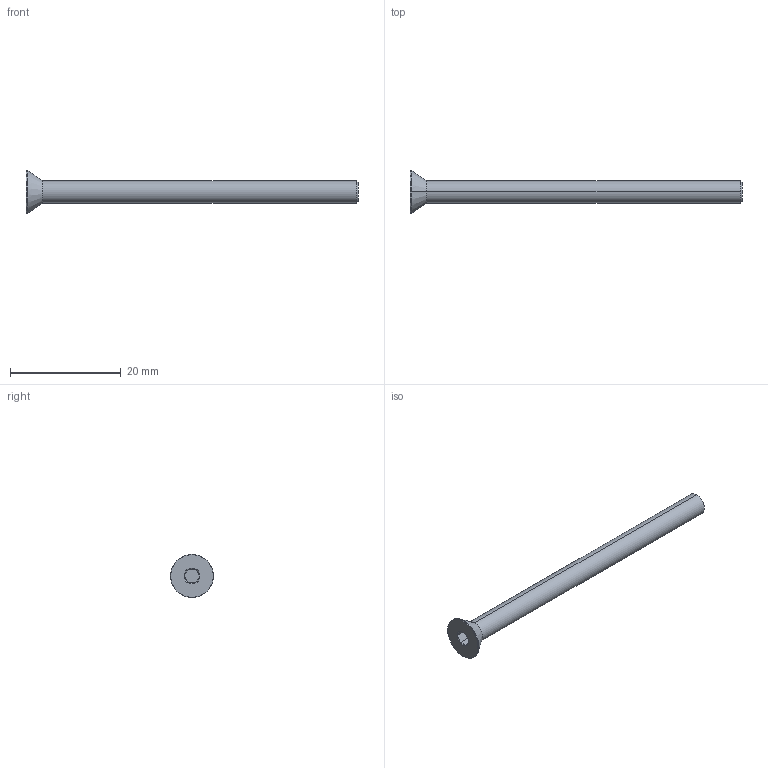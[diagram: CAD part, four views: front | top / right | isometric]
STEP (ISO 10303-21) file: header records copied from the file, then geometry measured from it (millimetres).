
FILE_DESCRIPTION (( 'STEP AP203' ), '1' );
FILE_NAME ('LGDB-304-M4x60.STEP', '2026-08-12T01:21:34', ( '' ), ( '' ), 'SwSTEP 2.0', 'SolidWorks 2020', '' );
FILE_SCHEMA (( 'CONFIG_CONTROL_DESIGN' ));
Length unit declared in the file: millimetre
Products named in the file (1): LGDB-304-M4x60
Bounding box: 60 x 7.8 x 7.8 mm (x, y, z)
Volume: 793.6 mm3; surface area: 858.2 mm2
Topology: 1 solids, 1 shells, 28 faces, 53 edges, 28 vertices
Faces by surface type: cone 11, plane 9, torus 4, cylinder 4
Entity records: 792 total; most frequent: CARTESIAN_POINT 153, DIRECTION 129, ORIENTED_EDGE 106, AXIS2_PLACEMENT_3D 54, EDGE_CURVE 53, EDGE_LOOP 29, VERTEX_POINT 28, ADVANCED_FACE 28
